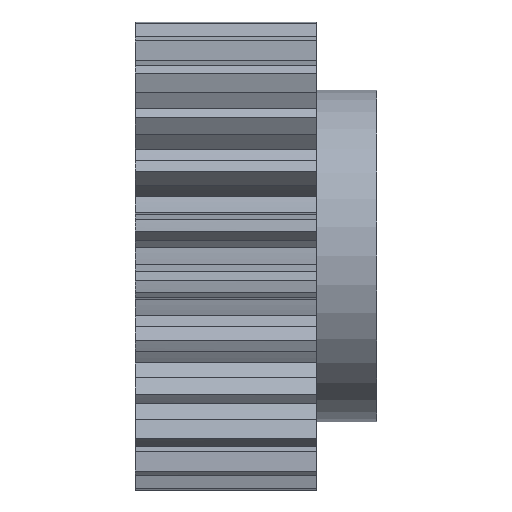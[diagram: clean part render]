
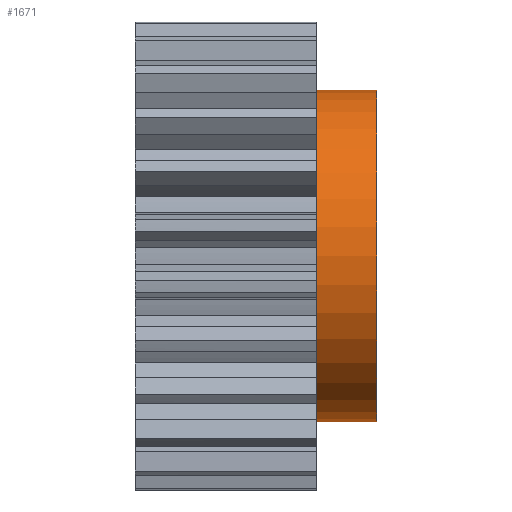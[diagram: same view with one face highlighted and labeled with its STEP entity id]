
A CAD part, front view. The second image highlights one B-rep face of the part: STEP entity #1671.
In plain terms, the highlighted cylindrical face has radius 55 mm (diameter 110 mm), a partial arc.
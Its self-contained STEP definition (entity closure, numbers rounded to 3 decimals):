
#1020 = CARTESIAN_POINT ( 'NONE',  ( 50., 0., 55. ) ) ;
#1028 = VERTEX_POINT ( 'NONE', #3352 ) ;
#1030 = VERTEX_POINT ( 'NONE', #1020 ) ;
#1095 = EDGE_CURVE ( 'NONE', #1104, #1099, #3529, .T. ) ;
#1099 = VERTEX_POINT ( 'NONE', #3530 ) ;
#1101 = EDGE_CURVE ( 'NONE', #1030, #1028, #3514, .T. ) ;
#1104 = VERTEX_POINT ( 'NONE', #3517 ) ;
#1533 = EDGE_CURVE ( 'NONE', #1028, #1099, #4030, .T. ) ;
#1538 = EDGE_CURVE ( 'NONE', #1104, #1030, #4298, .T. ) ;
#1610 = EDGE_LOOP ( 'NONE', ( #1668, #1667, #1672, #1661 ) ) ;
#1661 = ORIENTED_EDGE ( 'NONE', *, *, #1533, .T. ) ;
#1667 = ORIENTED_EDGE ( 'NONE', *, *, #1538, .T. ) ;
#1668 = ORIENTED_EDGE ( 'NONE', *, *, #1095, .F. ) ;
#1671 = ADVANCED_FACE ( 'NONE', ( #4316 ), #4317, .T. ) ;
#1672 = ORIENTED_EDGE ( 'NONE', *, *, #1101, .T. ) ;
#3352 = CARTESIAN_POINT ( 'NONE',  ( 30., 0., 55. ) ) ;
#3511 = DIRECTION ( 'NONE',  ( -1., 0., 0. ) ) ;
#3512 = VECTOR ( 'NONE', #3511, 1000. ) ;
#3513 = CARTESIAN_POINT ( 'NONE',  ( 30., 0., 55. ) ) ;
#3514 = LINE ( 'NONE', #3513, #3512 ) ;
#3517 = CARTESIAN_POINT ( 'NONE',  ( 50., 0., -55. ) ) ;
#3526 = DIRECTION ( 'NONE',  ( -1., 0., 0. ) ) ;
#3527 = VECTOR ( 'NONE', #3526, 1000. ) ;
#3528 = CARTESIAN_POINT ( 'NONE',  ( 30., 0., -55. ) ) ;
#3529 = LINE ( 'NONE', #3528, #3527 ) ;
#3530 = CARTESIAN_POINT ( 'NONE',  ( 30., 0., -55. ) ) ;
#3600 = DIRECTION ( 'NONE',  ( 0., 0., 1. ) ) ;
#3607 = DIRECTION ( 'NONE',  ( 1., 0., 0. ) ) ;
#4030 = CIRCLE ( 'NONE', #4050, 55. ) ;
#4034 = CARTESIAN_POINT ( 'NONE',  ( 30., 0., 0. ) ) ;
#4050 = AXIS2_PLACEMENT_3D ( 'NONE', #4034, #3607, #3600 ) ;
#4294 = DIRECTION ( 'NONE',  ( 0., 0., 1. ) ) ;
#4295 = DIRECTION ( 'NONE',  ( -1., 0., 0. ) ) ;
#4296 = CARTESIAN_POINT ( 'NONE',  ( 50., 0., 0. ) ) ;
#4297 = AXIS2_PLACEMENT_3D ( 'NONE', #4296, #4295, #4294 ) ;
#4298 = CIRCLE ( 'NONE', #4297, 55. ) ;
#4299 = CARTESIAN_POINT ( 'NONE',  ( 30., 0., 0. ) ) ;
#4311 = DIRECTION ( 'NONE',  ( 0., 0., 1. ) ) ;
#4312 = DIRECTION ( 'NONE',  ( -1., 0., 0. ) ) ;
#4315 = AXIS2_PLACEMENT_3D ( 'NONE', #4299, #4312, #4311 ) ;
#4316 = FACE_OUTER_BOUND ( 'NONE', #1610, .T. ) ;
#4317 = CYLINDRICAL_SURFACE ( 'NONE', #4315, 55. ) ;
